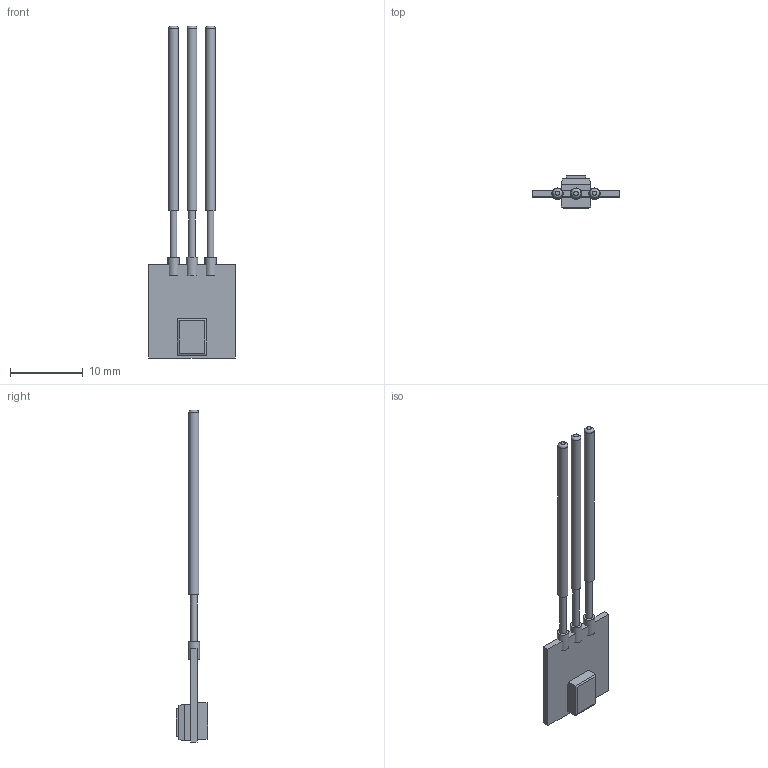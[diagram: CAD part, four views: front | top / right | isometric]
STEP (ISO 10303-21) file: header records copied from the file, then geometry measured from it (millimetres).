
FILE_DESCRIPTION(/* description */ (''),/* implementation_level */ '2;1');
FILE_NAME(/* name */ 'C:/Users/sorto/Desktop/SF_VERT.step',/* time_stamp */ '2020-10-05T14:35:03-05:00',/* author */ (''),/* organization */ (''),/* preprocessor_version */ 'ST-DEVELOPER v18.1',/* originating_system */ 'Autodesk Translation Framework v9.3.0.1241',/* authorisation */ '');
FILE_SCHEMA (('AUTOMOTIVE_DESIGN { 1 0 10303 214 3 1 1 }'));
Length unit declared in the file: inch
Products named in the file (1): SF_VERT
Bounding box: 11.81 x 4.39 x 45.59 mm (x, y, z)
Volume: 339.2 mm3; surface area: 943 mm2
Topology: 10 solids, 10 shells, 59 faces, 97 edges, 61 vertices
Faces by surface type: plane 47, cylinder 9, bspline 3
Full cylindrical faces by diameter (mm): 0.914 x3, 1.372 x3, 1.575 x3
Entity records: 1488 total; most frequent: CARTESIAN_POINT 296, DIRECTION 235, ORIENTED_EDGE 194, EDGE_CURVE 97, AXIS2_PLACEMENT_3D 81, LINE 73, VECTOR 73, EDGE_LOOP 62
